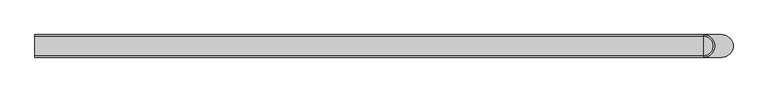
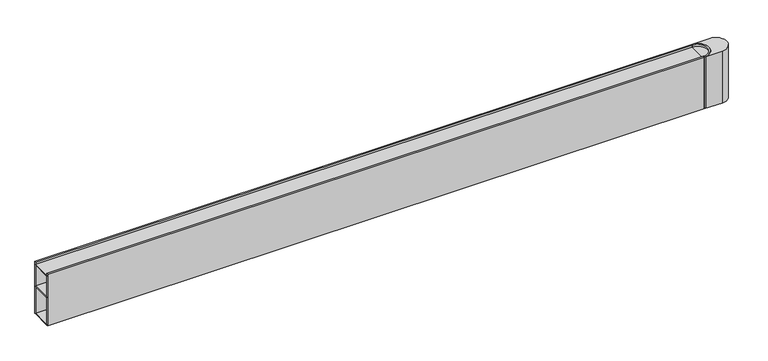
"""IFC4 building model written with IfcOpenShell, lengths in millimetres: light fixture geometry, Lighting-Ceiling-Betacalco-Block-Straight : BLKC-DT1-PW01-TR01-SL04-EP01-LP020-CR80-CTA40."""

from ifc_helpers import new_model, si_unit, point, frame, frame_2d, origin, origin_with_axes, place, context, project, spatial, polyline, circle_curve, trimmed, segment, composite_curve, outline, extrude, source, transform, mapped, element, save
from ifc_brep_helpers import plane_surface, cylinder_surface, revolved_surface, advanced_brep


def light_fixture_2e1d50b0(model_context):
    return source(origin(), model_context, "Body", "SolidModel", [
        extrude(outline(composite_curve([segment(polyline([(609.6, -20.6375), (609.6, -18.0975)]), True, "CONTINUOUS"), segment(trimmed(circle_curve(frame_2d((609.6, 0.0)), 18.0975), [point((609.6, -18.0975))], [point((609.6, 18.0975))], True, "CARTESIAN"), True, "CONTINUOUS"), segment(polyline([(609.6, 18.0975), (609.6, 20.6375)]), True, "CONTINUOUS"), segment(trimmed(circle_curve(frame_2d((609.6, 0.0)), 20.6375), [point((609.6, 20.6375))], [point((609.6, -20.6375))], False, "CARTESIAN"), True, "CONTINUOUS")], self_intersect=False)), frame((0.0, 0.0, 1.5875), z_axis=(0.0, 0.0, 1.0), x_axis=(1.0, 0.0, 0.0)), (0.0, 0.0, 1.0), 100.0125),
        extrude(outline(composite_curve([segment(polyline([(609.6, -18.0975), (609.6, 18.0975)]), True, "CONTINUOUS"), segment(trimmed(circle_curve(frame_2d((609.6, 0.0)), 18.0975), [point((609.6, 18.0975))], [point((609.6, -18.0975))], False, "CARTESIAN"), True, "CONTINUOUS")], self_intersect=False)), frame((0.0, 0.0, 96.3095588), z_axis=(0.0, 0.0, 1.0), x_axis=(1.0, 0.0, 0.0)), (0.0, 0.0, 1.0), 1.5875),
        advanced_brep(
        [(609.6, 20.6375, 1.5875), (609.6, -20.6375, 1.5875), (609.6, -20.6375, 0.0), (609.6, 20.6375, 0.0), (642.9375, 20.6375, 0.0), (642.9375, -20.6375, 0.0), (609.6, 20.6375, 101.6), (609.6, -20.6375, 101.6), (642.9375, -20.6375, 101.6), (642.9375, 20.6375, 101.6)],
        [
            (0, 1),
            (1, 0, circle_curve(frame((609.6, 0.0, 1.5875), z_axis=(0.0, 0.0, 1.0), x_axis=(1.0, 0.0, 0.0)), 20.6375)),
            (2, 3),
            (3, 4),
            (4, 5, circle_curve(frame((642.9375, 0.0, 0.0), z_axis=(0.0, 0.0, -1.0), x_axis=(1.0, 0.0, 0.0)), 20.6375)),
            (5, 2),
            (0, 3),
            (2, 1),
            (6, 7, circle_curve(frame((609.6, 0.0, 101.6), z_axis=(0.0, 0.0, -1.0), x_axis=(1.0, 0.0, 0.0)), 20.6375)),
            (7, 8),
            (8, 9, circle_curve(frame((642.9375, 0.0, 101.6), z_axis=(0.0, 0.0, 1.0), x_axis=(1.0, 0.0, 0.0)), 20.6375)),
            (9, 6),
            (6, 0),
            (1, 7),
            (5, 8),
            (4, 9),
        ],
        [
            plane_surface(frame((630.2375, 0.0, 1.5875), z_axis=(0.0, 0.0, 1.0), x_axis=(0.0, 1.0, 0.0))),
            plane_surface(frame((630.2375, 0.0, 0.0), z_axis=(0.0, 0.0, -1.0), x_axis=(0.0, -1.0, 0.0))),
            plane_surface(frame((609.6, 20.6375, 1.5875), z_axis=(-1.0, 0.0, 0.0), x_axis=(0.0, 0.0, -1.0))),
            plane_surface(frame((630.2375, 0.0, 101.6), z_axis=(0.0, 0.0, 1.0), x_axis=(0.0, -1.0, 0.0))),
            revolved_surface(polyline([(630.2375000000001, 0.0, 1.5875), (630.2375000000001, 0.0, 101.6)]), (609.6, 0.0, 0.0), (0.0, 0.0, -1.0)),
            plane_surface(frame((609.6, -20.6375, 101.6), z_axis=(0.0, -1.0, 0.0), x_axis=(0.0, 0.0, -1.0))),
            cylinder_surface(frame((642.9375, 0.0, 0.0), z_axis=(0.0, 0.0, 1.0), x_axis=(1.0, 0.0, 0.0)), 20.6375),
            plane_surface(frame((642.9375, 20.6375, 101.6), z_axis=(0.0, 1.0, 0.0), x_axis=(0.0, 0.0, -1.0))),
        ],
        [
            (0, [[1, 2]]),
            (1, [[3, 4, 5, 6]]),
            (2, [[-1, 7, -3, 8]]),
            (3, [[9, 10, 11, 12]]),
            (4, [[-9, 13, -2, 14]]),
            (5, [[-10, -14, -8, -6, 15]]),
            (6, [[-11, -15, -5, 16]]),
            (7, [[-12, -16, -4, -7, -13]]),
        ],
    ),
        extrude(outline(polyline([(609.6, 18.0975), (609.6, -18.0975), (-609.6, -18.0975), (-609.6, 18.0975), (609.6, 18.0975)])), frame((0.0, 0.0, 96.3095588), z_axis=(0.0, 0.0, 1.0), x_axis=(1.0, 0.0, 0.0)), (0.0, 0.0, 1.0), 1.5875),
        extrude(outline(polyline([(609.6, 18.0975), (609.6, -18.0975), (-609.6, -18.0975), (-609.6, 18.0975), (609.6, 18.0975)])), frame((0.0, 0.0, 53.687913), z_axis=(0.0, 0.0, 1.0), x_axis=(1.0, 0.0, 0.0)), (0.0, 0.0, 1.0), 1.5875),
        extrude(outline(polyline([(609.6, 18.0975), (609.6, -18.0975), (-609.6, -18.0975), (-609.6, 18.0975), (609.6, 18.0975)])), origin_with_axes(), (0.0, 0.0, 1.0), 1.5875),
        extrude(outline(polyline([(609.6, 20.6375), (609.6, 18.0975), (-609.6, 18.0975), (-609.6, 20.6375), (609.6, 20.6375)])), origin_with_axes(), (0.0, 0.0, 1.0), 101.6),
        extrude(outline(polyline([(609.6, -18.0975), (609.6, -20.6375), (-609.6, -20.6375), (-609.6, -18.0975), (609.6, -18.0975)])), origin_with_axes(), (0.0, 0.0, 1.0), 101.6),
    ])


if __name__ == "__main__":
    model = new_model("IFC4")
    model_context = context("Model", 3, world=origin())
    ifc_project = project(units=[si_unit("LENGTHUNIT", "METRE", prefix="MILLI")], contexts=[model_context])
    site = spatial("IfcSite", under=ifc_project)
    building = spatial("IfcBuilding", under=site)
    placement = place(None, origin())
    light_fixture_shape = light_fixture_2e1d50b0(model_context)
    element("IfcLightFixture", 1, ObjectType="Lighting-Ceiling-Betacalco-Block-Straight : BLKC-DT1-PW01-TR01-SL04-EP01-LP020-CR80-CTA40", at=placement, inside=building, context=model_context, shape_type="MappedRepresentation", body=[
        mapped(light_fixture_shape, transform((0.0, 0.0, 0.0), x_axis=(1.0, 0.0, 0.0), y_axis=(0.0, 1.0, 0.0), z_axis=(0.0, 0.0, 1.0))),
    ])
    save(model, "model.ifc")
